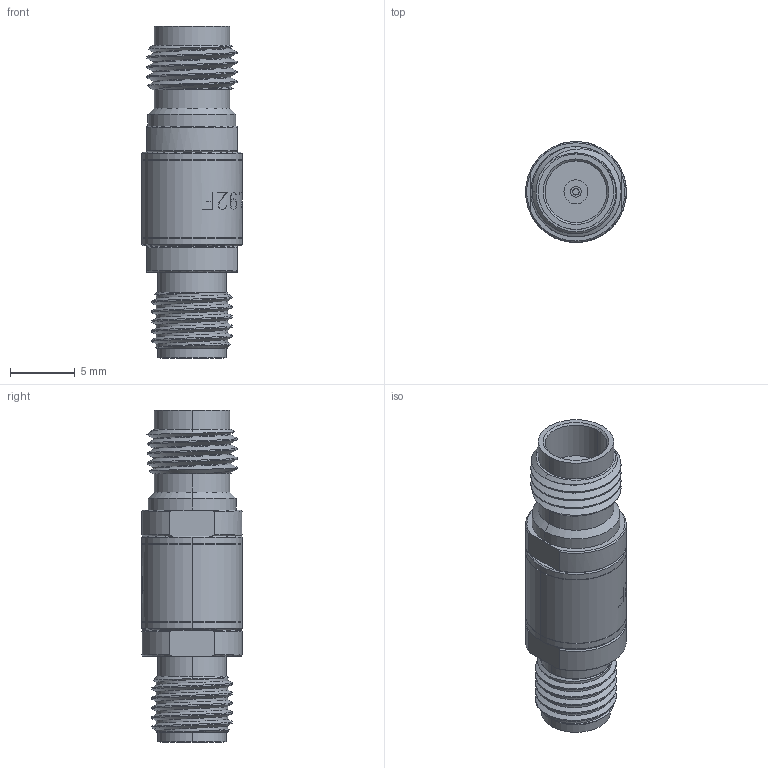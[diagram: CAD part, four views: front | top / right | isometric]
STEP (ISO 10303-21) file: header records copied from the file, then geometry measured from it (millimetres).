
FILE_DESCRIPTION (( 'STEP AP203' ), '1' );
FILE_NAME ('2228000K001-820-Cst.STEP', '2020-10-29T19:45:07', ( '' ), ( '' ), 'SwSTEP 2.0', 'SolidWorks 2019', '' );
FILE_SCHEMA (( 'CONFIG_CONTROL_DESIGN' ));
Length unit declared in the file: inch
Products named in the file (1): 2228000K001-820-Cst
Bounding box: 7.81 x 7.81 x 25.68 mm (x, y, z)
Volume: 840.9 mm3; surface area: 861.3 mm2
Topology: 1 solids, 1 shells, 386 faces, 1052 edges, 700 vertices
Faces by surface type: bspline 161, plane 111, cylinder 80, cone 34
Entity records: 15932 total; most frequent: CARTESIAN_POINT 7189, ORIENTED_EDGE 2104, DIRECTION 1322, EDGE_CURVE 1052, VERTEX_POINT 700, AXIS2_PLACEMENT_3D 452, EDGE_LOOP 418, VECTOR 418
